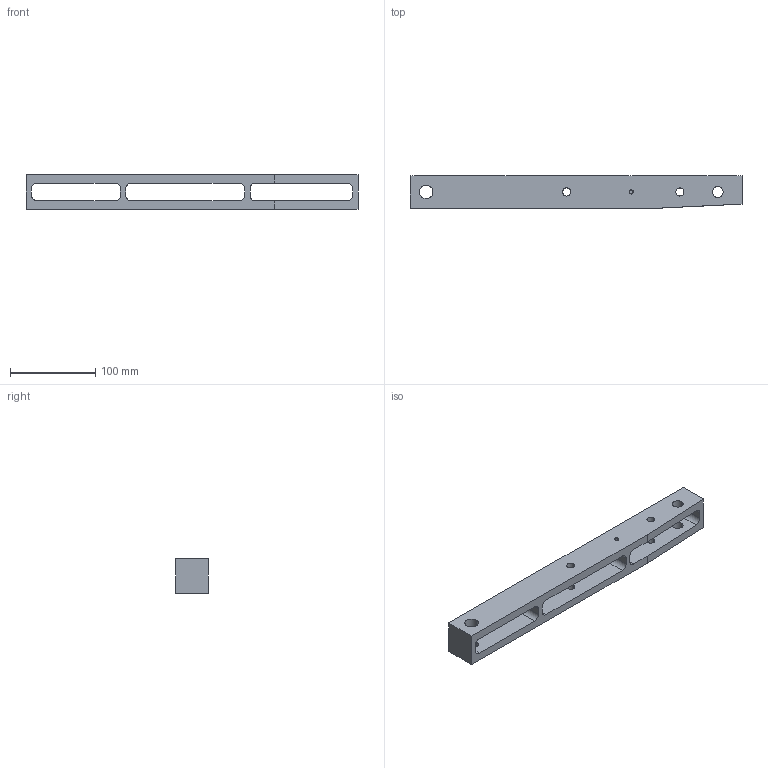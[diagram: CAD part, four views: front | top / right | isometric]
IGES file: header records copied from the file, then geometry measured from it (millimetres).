
Start section:  PTC IGES file: dm_jt_001.igs
Global section: file name: dm_jt_001.igs; native system: Pro/ENGINEER by Parametric Technology Corporation; preprocessor: 2008230; author: Daniel Morehouse; organization: Unknown; date: 20090411.090822; units: inch
Bounding box: 390.52 x 38.1 x 41.94 mm (x, y, z)
Volume: 310979.6 mm3; surface area: 82687.4 mm2
Topology: 1 solids, 3 shells, 67 faces, 228 edges, 190 vertices
Faces by surface type: revolution 44, bspline 23
